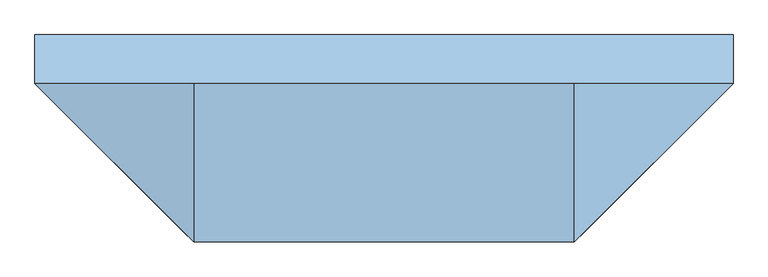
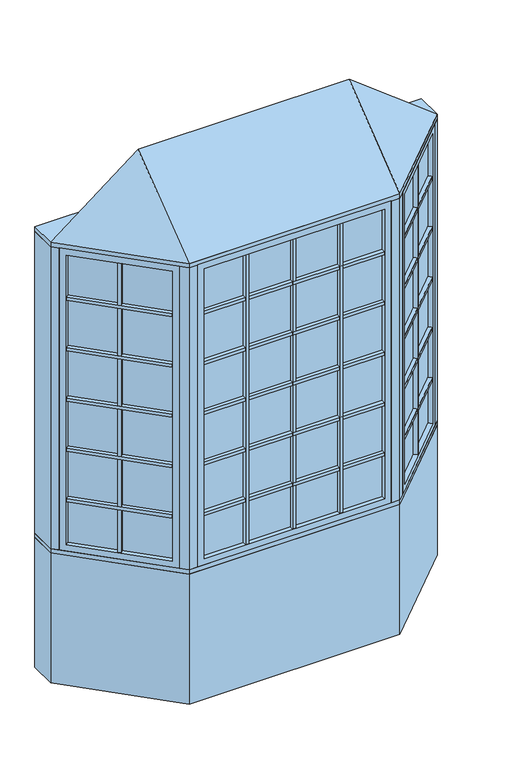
"""IFC4 building model written with IfcOpenShell, lengths in millimetres: window geometry, Pollard_Windows_Tudor Casement Bows and Bays : AML-BAY 45 AFR0518-12-600_GC."""

import ifcopenshell
import ifcopenshell.guid

model = None  # the IFC model being written
_history = None  # IfcOwnerHistory: only IFC2X3 demands one
_inside = {}  # id of a spatial element -> (the spatial element, [elements in it])
_under = {}  # id of a project, library or spatial element -> (it, [spatial elements below it])
_declared = {}  # id of a project -> (the project, [libraries it declares])
_typed = {}  # id of a type object -> (the type object, [elements of that type])
_made_of = {}  # id of a material, layer set ... -> (it, [elements and type objects made of it])


def new_model(schema):
    """Start an empty IFC model of exactly this schema.

    Asked for "IFC4X3", IfcOpenShell would pick the latest addendum, in which some entities
    have other attributes; the version numbers below select the first issue.
    IFC2X3 requires an IfcOwnerHistory on every rooted entity: one is made here for all.
    """
    global model, _history
    if schema == "IFC4X3":
        model = ifcopenshell.file(schema_version=(4, 3, 0, 0))
    else:
        model = ifcopenshell.file(schema=schema)
    _inside.clear()
    _under.clear()
    _declared.clear()
    _typed.clear()
    _made_of.clear()
    _history = None
    if model.schema == "IFC2X3":
        org = make("IfcOrganization", Name="unknown")
        user = make(
            "IfcPersonAndOrganization",
            ThePerson=make("IfcPerson", FamilyName="unknown"),
            TheOrganization=org,
        )
        app = make(
            "IfcApplication",
            ApplicationDeveloper=org,
            Version="unknown",
            ApplicationFullName="unknown",
            ApplicationIdentifier="unknown",
        )
        _history = make(
            "IfcOwnerHistory",
            OwningUser=user,
            OwningApplication=app,
            ChangeAction="ADDED",
            CreationDate=0,
        )
    return model


def make(cls, **values):
    """One entity of the class cls with the attributes given. An attribute that is None is left unset."""
    return model.create_entity(
        cls, **{name: value for name, value in values.items() if value is not None}
    )


def rooted(cls, **values):
    """An entity with a GlobalId (a new one), such as an element, a storey or a relation."""
    return make(cls, GlobalId=ifcopenshell.guid.new(), OwnerHistory=_history, **values)


def si_unit(unit_type, name, prefix=None):
    """IfcSIUnit, for example si_unit("LENGTHUNIT", "METRE", prefix="MILLI")."""
    return make("IfcSIUnit", UnitType=unit_type, Prefix=prefix, Name=name)


def assignment(units):
    """IfcUnitAssignment: the units of a project."""
    return None if units is None else make("IfcUnitAssignment", Units=units)


def point(xyz):
    """IfcCartesianPoint."""
    return None if xyz is None else make("IfcCartesianPoint", Coordinates=xyz)


def direction(xyz):
    """IfcDirection."""
    return None if xyz is None else make("IfcDirection", DirectionRatios=xyz)


def frame(location, z_axis=None, x_axis=None):
    """IfcAxis2Placement3D, a coordinate frame: its origin and axes. An axis left out is left unset."""
    return make(
        "IfcAxis2Placement3D",
        Location=point(location),
        Axis=direction(z_axis),
        RefDirection=direction(x_axis),
    )


def origin():
    """The frame at (0, 0, 0) with its axes left unset."""
    return frame((0.0, 0.0, 0.0))


def origin_with_axes():
    """The frame at (0, 0, 0) with the z axis (0, 0, 1) and the x axis (1, 0, 0) written out."""
    return frame((0.0, 0.0, 0.0), z_axis=(0.0, 0.0, 1.0), x_axis=(1.0, 0.0, 0.0))


def place(relative_to, where):
    """IfcLocalPlacement: puts the frame where relative to a parent placement (None: the world)."""
    return make(
        "IfcLocalPlacement", PlacementRelTo=relative_to, RelativePlacement=where
    )


def context(
    kind, dimensions, precision=None, world=None, true_north=None, identifier=None
):
    """IfcGeometricRepresentationContext, for example the 3D "Model" context."""
    return make(
        "IfcGeometricRepresentationContext",
        ContextIdentifier=identifier,
        ContextType=kind,
        CoordinateSpaceDimension=dimensions,
        Precision=precision,
        WorldCoordinateSystem=world,
        TrueNorth=true_north,
    )


def project(units=None, contexts=None):
    """IfcProject with its units and contexts."""
    return rooted(
        "IfcProject",
        Name="project",
        RepresentationContexts=contexts,
        UnitsInContext=assignment(units),
    )


def spatial(cls, under=None, at=None, **own):
    """A site, building, storey or space (cls), placed at a placement, below another one or the project."""
    s = rooted(cls, ObjectPlacement=at, **own)
    if under is not None:
        _under.setdefault(under.id(), (under, []))[1].append(s)
    return s


def polyline(points):
    """IfcPolyline through the points."""
    return make("IfcPolyline", Points=[point(p) for p in points])


def outline(outer, holes=None, kind="AREA"):
    """IfcArbitraryClosedProfileDef: a profile drawn as a closed curve; with holes, ...WithVoids."""
    if holes is None:
        return make("IfcArbitraryClosedProfileDef", ProfileType=kind, OuterCurve=outer)
    return make(
        "IfcArbitraryProfileDefWithVoids",
        ProfileType=kind,
        OuterCurve=outer,
        InnerCurves=holes,
    )


def extrude(swept, where, along, depth):
    """IfcExtrudedAreaSolid: the profile swept, set in the frame where, extruded along a direction by depth."""
    return make(
        "IfcExtrudedAreaSolid",
        SweptArea=swept,
        Position=where,
        ExtrudedDirection=direction(along),
        Depth=depth,
    )


def faces_of(points, faces, orient=None, outer=None):
    """IfcFace entities. A face is a list of loops; a loop is a list of indices into points, from 0.

    orient and outer hold one flag for each loop. By default every Orientation is true, the
    first loop of a face is its IfcFaceOuterBound and the others are IfcFaceBound.
    """
    made = []
    for i, loops in enumerate(faces):
        bounds = []
        for j, loop in enumerate(loops):
            is_outer = j == 0 if outer is None else outer[i][j]
            bounds.append(
                make(
                    "IfcFaceOuterBound" if is_outer else "IfcFaceBound",
                    Bound=make("IfcPolyLoop", Polygon=[points[k] for k in loop]),
                    Orientation=True if orient is None else orient[i][j],
                )
            )
        made.append(make("IfcFace", Bounds=bounds))
    return made


def faceted_brep(points, faces, orient=None, outer=None, voids=None):
    """IfcFacetedBrep: a solid bounded by flat faces; with voids (closed shells), ...WithVoids."""
    shared = [point(p) for p in points]
    hull = make("IfcClosedShell", CfsFaces=faces_of(shared, faces, orient, outer))
    if voids is None:
        return make("IfcFacetedBrep", Outer=hull)
    return make(
        "IfcFacetedBrepWithVoids",
        Outer=hull,
        Voids=[
            make(cls, CfsFaces=faces_of(shared, fs, o, b)) for cls, fs, o, b in voids
        ],
    )


def shape(context_of_items, identifier, shape_type, items):
    """IfcShapeRepresentation: the items that make up one representation, for example the "Body"."""
    return make(
        "IfcShapeRepresentation",
        ContextOfItems=context_of_items,
        RepresentationIdentifier=identifier,
        RepresentationType=shape_type,
        Items=items,
    )


def source(mapping_origin, context_of_items, identifier, shape_type, items):
    """IfcRepresentationMap: a shape defined once, which mapped items show again and again."""
    return make(
        "IfcRepresentationMap",
        MappingOrigin=mapping_origin,
        MappedRepresentation=shape(context_of_items, identifier, shape_type, items),
    )


def transform(
    local_origin,
    x_axis=None,
    y_axis=None,
    z_axis=None,
    scale=None,
    scale2=None,
    scale3=None,
    uniform=True,
):
    """IfcCartesianTransformationOperator3D, or its non-uniform kind. x_axis, y_axis, z_axis: its Axis1, 2, 3."""
    if uniform:
        return make(
            "IfcCartesianTransformationOperator3D",
            Axis1=direction(x_axis),
            Axis2=direction(y_axis),
            LocalOrigin=point(local_origin),
            Scale=scale,
            Axis3=direction(z_axis),
        )
    return make(
        "IfcCartesianTransformationOperator3DnonUniform",
        Axis1=direction(x_axis),
        Axis2=direction(y_axis),
        LocalOrigin=point(local_origin),
        Scale=scale,
        Axis3=direction(z_axis),
        Scale2=scale2,
        Scale3=scale3,
    )


def mapped(mapping_source, mapping_target):
    """IfcMappedItem: shows the shape of a source again, moved by a transform."""
    return make(
        "IfcMappedItem", MappingSource=mapping_source, MappingTarget=mapping_target
    )


def made_of(thing, what):
    """Note that an element or type object is made of a material, layer set ...; save() writes the relation."""
    if what is not None:
        _made_of.setdefault(what.id(), (what, []))[1].append(thing)
    return thing


def element(
    cls,
    number,
    at=None,
    inside=None,
    cuts=None,
    type_object=None,
    material=None,
    context=None,
    identifier="Body",
    shape_type=None,
    held_by="IfcProductDefinitionShape",
    body=None,
    shapes=None,
    **own,
):
    """One element of the class cls, such as IfcWall. Its Tag is "e" and its number.

    at: its placement. inside: the storey or other place that contains it. cuts: it is an
    opening in that element (IfcRelVoidsElement). A single representation is given by context,
    identifier, shape_type and body (its items); several are given by shapes. held_by: the class
    of the entity that holds the representations. save() writes the other relations.
    """
    e = rooted(cls, Tag="e%d" % number, ObjectPlacement=at, **own)
    if body is not None:
        shapes = [shape(context, identifier, shape_type, body)]
    if shapes is not None:
        e.Representation = make(held_by, Representations=shapes)
    if inside is not None:
        _inside.setdefault(inside.id(), (inside, []))[1].append(e)
    if cuts is not None:
        rooted(
            "IfcRelVoidsElement", RelatingBuildingElement=cuts, RelatedOpeningElement=e
        )
    if type_object is not None:
        _typed.setdefault(type_object.id(), (type_object, []))[1].append(e)
    return made_of(e, material)


def aggregate(whole, parts):
    """IfcRelAggregates: a whole, such as a stair, and the parts it consists of."""
    return rooted("IfcRelAggregates", RelatingObject=whole, RelatedObjects=parts)


def save(model, path):
    """Write the relations noted so far, then the file.

    IfcRelAggregates (storeys below a building ...), IfcRelContainedInSpatialStructure (elements
    in a storey), IfcRelDefinesByType, IfcRelAssociatesMaterial and IfcRelDeclares: one each for
    every whole, place, type object, material and project.
    """
    for whole, parts in _under.values():
        aggregate(whole, parts)
    for where, things in _inside.values():
        rooted(
            "IfcRelContainedInSpatialStructure",
            RelatedElements=things,
            RelatingStructure=where,
        )
    for kind, things in _typed.values():
        rooted("IfcRelDefinesByType", RelatedObjects=things, RelatingType=kind)
    for what, things in _made_of.values():
        rooted("IfcRelAssociatesMaterial", RelatedObjects=things, RelatingMaterial=what)
    for by, libraries in _declared.values():
        rooted("IfcRelDeclares", RelatingContext=by, RelatedDefinitions=libraries)
    model.write(path)


def window_131a28d9(model_context):
    return source(origin(), model_context, "Body", "SolidModel", [
        extrude(outline(polyline([(653.0114193, -506.9608753), (637.4550701, -491.4045261), (1015.116171, -113.7434252), (1030.6725202, -129.2997743), (653.0114193, -506.9608753)])), frame((0.0, 0.0, 1690.998), z_axis=(0.0, 0.0, 1.0), x_axis=(1.0, 0.0, 0.0)), (0.0, 0.0, 1.0), 18.0),
        extrude(outline(polyline([(633.8629677, -487.8124236), (618.3066185, -472.2560744), (995.9677194, -94.5949735), (1011.5240686, -110.1513227), (633.8629677, -487.8124236)])), frame((0.0, 0.0, 1690.998), z_axis=(0.0, 0.0, 1.0), x_axis=(1.0, 0.0, 0.0)), (0.0, 0.0, 1.0), 18.0),
        extrude(outline(polyline([(653.0114193, -506.9608753), (637.4550701, -491.4045261), (1015.116171, -113.7434252), (1030.6725202, -129.2997743), (653.0114193, -506.9608753)])), frame((0.0, 0.0, 1090.998), z_axis=(0.0, 0.0, 1.0), x_axis=(1.0, 0.0, 0.0)), (0.0, 0.0, 1.0), 18.0),
        extrude(outline(polyline([(633.8629677, -487.8124236), (618.3066185, -472.2560744), (995.9677194, -94.5949735), (1011.5240686, -110.1513227), (633.8629677, -487.8124236)])), frame((0.0, 0.0, 1090.998), z_axis=(0.0, 0.0, 1.0), x_axis=(1.0, 0.0, 0.0)), (0.0, 0.0, 1.0), 18.0),
        extrude(outline(polyline([(653.0114193, -506.9608753), (637.4550701, -491.4045261), (1015.116171, -113.7434252), (1030.6725202, -129.2997743), (653.0114193, -506.9608753)])), frame((0.0, 0.0, 1390.998), z_axis=(0.0, 0.0, 1.0), x_axis=(1.0, 0.0, 0.0)), (0.0, 0.0, 1.0), 18.0),
        extrude(outline(polyline([(633.8629677, -487.8124236), (618.3066185, -472.2560744), (995.9677194, -94.5949735), (1011.5240686, -110.1513227), (633.8629677, -487.8124236)])), frame((0.0, 0.0, 1390.998), z_axis=(0.0, 0.0, 1.0), x_axis=(1.0, 0.0, 0.0)), (0.0, 0.0, 1.0), 18.0),
        extrude(outline(polyline([(653.0114193, -506.9608753), (637.4550701, -491.4045261), (1015.116171, -113.7434252), (1030.6725202, -129.2997743), (653.0114193, -506.9608753)])), frame((0.0, 0.0, 1990.998), z_axis=(0.0, 0.0, 1.0), x_axis=(1.0, 0.0, 0.0)), (0.0, 0.0, 1.0), 18.0),
        extrude(outline(polyline([(633.8629677, -487.8124236), (618.3066185, -472.2560744), (995.9677194, -94.5949735), (1011.5240686, -110.1513227), (633.8629677, -487.8124236)])), frame((0.0, 0.0, 1990.998), z_axis=(0.0, 0.0, 1.0), x_axis=(1.0, 0.0, 0.0)), (0.0, 0.0, 1.0), 18.0),
        extrude(outline(polyline([(653.0114193, -506.9608753), (637.4550701, -491.4045261), (1015.116171, -113.7434252), (1030.6725202, -129.2997743), (653.0114193, -506.9608753)])), frame((0.0, 0.0, 2290.998), z_axis=(0.0, 0.0, 1.0), x_axis=(1.0, 0.0, 0.0)), (0.0, 0.0, 1.0), 18.0),
        extrude(outline(polyline([(633.8629677, -487.8124236), (618.3066185, -472.2560744), (995.9677194, -94.5949735), (1011.5240686, -110.1513227), (633.8629677, -487.8124236)])), frame((0.0, 0.0, 2290.998), z_axis=(0.0, 0.0, 1.0), x_axis=(1.0, 0.0, 0.0)), (0.0, 0.0, 1.0), 18.0),
        extrude(outline(polyline([(832.6495816, -296.2100146), (848.2059308, -311.7663638), (835.4780087, -324.4942858), (819.9216595, -308.9379366), (832.6495816, -296.2100146)])), frame((0.0, 0.0, 835.8628), z_axis=(0.0, 0.0, 1.0), x_axis=(1.0, 0.0, 0.0)), (0.0, 0.0, 1.0), 1728.2704),
        extrude(outline(polyline([(829.0574791, -292.6179121), (816.3295571, -305.3458342), (800.7732079, -289.789485), (813.50113, -277.0615629), (829.0574791, -292.6179121)])), frame((0.0, 0.0, 835.8628), z_axis=(0.0, 0.0, 1.0), x_axis=(1.0, 0.0, 0.0)), (0.0, 0.0, 1.0), 1728.2704),
        extrude(outline(polyline([(1024.0964271, -104.763169), (628.474814, -500.3847822), (624.8827115, -496.7926797), (1020.5043247, -101.1710666), (1024.0964271, -104.763169)])), frame((0.0, 0.0, 823.1628), z_axis=(0.0, 0.0, 1.0), x_axis=(1.0, 0.0, 0.0)), (0.0, 0.0, 1.0), 1753.6704),
        faceted_brep([(1015.116171, -113.7434252, 835.8628), (1033.0766833, -131.7039374, 835.8628), (1033.0766833, -131.7039374, 2564.1332), (1015.116171, -113.7434252, 2564.1332), (1020.5043247, -101.1710666, 823.1628), (1024.0964271, -104.763169, 823.1628), (1024.0964271, -104.763169, 2576.8332), (1020.5043247, -101.1710666, 2576.8332), (993.5635563, -92.1908105, 835.8628), (1011.5240686, -110.1513227, 835.8628), (1011.5240686, -110.1513227, 2564.1332), (993.5635563, -92.1908105, 2564.1332), (1058.4369265, -106.3436941, 799.998), (1018.9237996, -66.8305672, 799.998), (1018.9237996, -66.8305672, 2599.998), (1058.4369265, -106.3436941, 2599.998), (655.4155823, -509.3650383, 2564.1332), (637.4550701, -491.4045261, 2564.1332), (628.474814, -500.3847822, 2576.8332), (624.8827115, -496.7926797, 2576.8332), (633.8629677, -487.8124236, 2564.1332), (615.9024554, -469.8519114, 2564.1332), (590.5422121, -495.2121547, 2599.998), (630.0553391, -534.7252816, 2599.998), (655.4155823, -509.3650383, 835.8628), (637.4550701, -491.4045261, 835.8628), (628.474814, -500.3847822, 823.1628), (624.8827115, -496.7926797, 823.1628), (633.8629677, -487.8124236, 835.8628), (615.9024554, -469.8519114, 835.8628), (590.5422121, -495.2121547, 799.998), (630.0553391, -534.7252816, 799.998)], [[[0, 1, 2, 3]], [[4, 5, 6, 7]], [[8, 9, 10, 11]], [[12, 13, 14, 15]], [[3, 2, 16, 17]], [[7, 6, 18, 19]], [[11, 10, 20, 21]], [[15, 14, 22, 23]], [[17, 16, 24, 25]], [[19, 18, 26, 27]], [[21, 20, 28, 29]], [[23, 22, 30, 31]], [[25, 24, 1, 0]], [[5, 26, 18, 6], [3, 17, 25, 0]], [[27, 26, 5, 4]], [[7, 19, 27, 4], [9, 28, 20, 10]], [[29, 28, 9, 8]], [[13, 30, 22, 14], [11, 21, 29, 8]], [[31, 30, 13, 12]], [[15, 23, 31, 12], [1, 24, 16, 2]]]),
        extrude(outline(polyline([(274.2677, -544.6806207), (274.2677, -566.6806207), (256.2677, -566.6806207), (256.2677, -544.6806207), (274.2677, -544.6806207)])), frame((0.0, 0.0, 835.8628), z_axis=(0.0, 0.0, 1.0), x_axis=(1.0, 0.0, 0.0)), (0.0, 0.0, 1.0), 1728.2704),
        extrude(outline(polyline([(274.2677, -539.6006207), (256.2677, -539.6006207), (256.2677, -517.6006207), (274.2677, -517.6006207), (274.2677, -539.6006207)])), frame((0.0, 0.0, 835.8628), z_axis=(0.0, 0.0, 1.0), x_axis=(1.0, 0.0, 0.0)), (0.0, 0.0, 1.0), 1728.2704),
        extrude(outline(polyline([(-256.2677, -544.6806207), (-256.2677, -566.6806207), (-274.2677, -566.6806207), (-274.2677, -544.6806207), (-256.2677, -544.6806207)])), frame((0.0, 0.0, 835.8628), z_axis=(0.0, 0.0, 1.0), x_axis=(1.0, 0.0, 0.0)), (0.0, 0.0, 1.0), 1728.2704),
        extrude(outline(polyline([(-256.2677, -539.6006207), (-274.2677, -539.6006207), (-274.2677, -517.6006207), (-256.2677, -517.6006207), (-256.2677, -539.6006207)])), frame((0.0, 0.0, 835.8628), z_axis=(0.0, 0.0, 1.0), x_axis=(1.0, 0.0, 0.0)), (0.0, 0.0, 1.0), 1728.2704),
        extrude(outline(polyline([(-508.8352, -566.6806207), (-508.8352, -544.6806207), (508.8352, -544.6806207), (508.8352, -566.6806207), (-508.8352, -566.6806207)])), frame((0.0, 0.0, 1090.998), z_axis=(0.0, 0.0, 1.0), x_axis=(1.0, 0.0, 0.0)), (0.0, 0.0, 1.0), 18.0),
        extrude(outline(polyline([(-508.8352, -539.6006207), (-508.8352, -517.6006207), (508.8352, -517.6006207), (508.8352, -539.6006207), (-508.8352, -539.6006207)])), frame((0.0, 0.0, 1090.998), z_axis=(0.0, 0.0, 1.0), x_axis=(1.0, 0.0, 0.0)), (0.0, 0.0, 1.0), 18.0),
        extrude(outline(polyline([(-508.8352, -566.6806207), (-508.8352, -544.6806207), (508.8352, -544.6806207), (508.8352, -566.6806207), (-508.8352, -566.6806207)])), frame((0.0, 0.0, 1390.998), z_axis=(0.0, 0.0, 1.0), x_axis=(1.0, 0.0, 0.0)), (0.0, 0.0, 1.0), 18.0),
        extrude(outline(polyline([(-508.8352, -539.6006207), (-508.8352, -517.6006207), (508.8352, -517.6006207), (508.8352, -539.6006207), (-508.8352, -539.6006207)])), frame((0.0, 0.0, 1390.998), z_axis=(0.0, 0.0, 1.0), x_axis=(1.0, 0.0, 0.0)), (0.0, 0.0, 1.0), 18.0),
        extrude(outline(polyline([(-508.8352, -566.6806207), (-508.8352, -544.6806207), (508.8352, -544.6806207), (508.8352, -566.6806207), (-508.8352, -566.6806207)])), frame((0.0, 0.0, 1690.998), z_axis=(0.0, 0.0, 1.0), x_axis=(1.0, 0.0, 0.0)), (0.0, 0.0, 1.0), 18.0),
        extrude(outline(polyline([(-508.8352, -539.6006207), (-508.8352, -517.6006207), (508.8352, -517.6006207), (508.8352, -539.6006207), (-508.8352, -539.6006207)])), frame((0.0, 0.0, 1690.998), z_axis=(0.0, 0.0, 1.0), x_axis=(1.0, 0.0, 0.0)), (0.0, 0.0, 1.0), 18.0),
        extrude(outline(polyline([(-508.8352, -566.6806207), (-508.8352, -544.6806207), (508.8352, -544.6806207), (508.8352, -566.6806207), (-508.8352, -566.6806207)])), frame((0.0, 0.0, 1990.998), z_axis=(0.0, 0.0, 1.0), x_axis=(1.0, 0.0, 0.0)), (0.0, 0.0, 1.0), 18.0),
        extrude(outline(polyline([(-508.8352, -539.6006207), (-508.8352, -517.6006207), (508.8352, -517.6006207), (508.8352, -539.6006207), (-508.8352, -539.6006207)])), frame((0.0, 0.0, 1990.998), z_axis=(0.0, 0.0, 1.0), x_axis=(1.0, 0.0, 0.0)), (0.0, 0.0, 1.0), 18.0),
        extrude(outline(polyline([(-1030.6725202, -129.2997743), (-1015.116171, -113.7434252), (-637.4550701, -491.4045261), (-653.0114193, -506.9608753), (-1030.6725202, -129.2997743)])), frame((0.0, 0.0, 1090.998), z_axis=(0.0, 0.0, 1.0), x_axis=(1.0, 0.0, 0.0)), (0.0, 0.0, 1.0), 18.0),
        extrude(outline(polyline([(-1011.5240686, -110.1513227), (-995.9677194, -94.5949735), (-618.3066185, -472.2560744), (-633.8629677, -487.8124236), (-1011.5240686, -110.1513227)])), frame((0.0, 0.0, 1090.998), z_axis=(0.0, 0.0, 1.0), x_axis=(1.0, 0.0, 0.0)), (0.0, 0.0, 1.0), 18.0),
        extrude(outline(polyline([(-1030.6725202, -129.2997743), (-1015.116171, -113.7434252), (-637.4550701, -491.4045261), (-653.0114193, -506.9608753), (-1030.6725202, -129.2997743)])), frame((0.0, 0.0, 1390.998), z_axis=(0.0, 0.0, 1.0), x_axis=(1.0, 0.0, 0.0)), (0.0, 0.0, 1.0), 18.0),
        extrude(outline(polyline([(-1011.5240686, -110.1513227), (-995.9677194, -94.5949735), (-618.3066185, -472.2560744), (-633.8629677, -487.8124236), (-1011.5240686, -110.1513227)])), frame((0.0, 0.0, 1390.998), z_axis=(0.0, 0.0, 1.0), x_axis=(1.0, 0.0, 0.0)), (0.0, 0.0, 1.0), 18.0),
        extrude(outline(polyline([(-1030.6725202, -129.2997743), (-1015.116171, -113.7434252), (-637.4550701, -491.4045261), (-653.0114193, -506.9608753), (-1030.6725202, -129.2997743)])), frame((0.0, 0.0, 1690.998), z_axis=(0.0, 0.0, 1.0), x_axis=(1.0, 0.0, 0.0)), (0.0, 0.0, 1.0), 18.0),
        extrude(outline(polyline([(-1011.5240686, -110.1513227), (-995.9677194, -94.5949735), (-618.3066185, -472.2560744), (-633.8629677, -487.8124236), (-1011.5240686, -110.1513227)])), frame((0.0, 0.0, 1690.998), z_axis=(0.0, 0.0, 1.0), x_axis=(1.0, 0.0, 0.0)), (0.0, 0.0, 1.0), 18.0),
        extrude(outline(polyline([(-1030.6725202, -129.2997743), (-1015.116171, -113.7434252), (-637.4550701, -491.4045261), (-653.0114193, -506.9608753), (-1030.6725202, -129.2997743)])), frame((0.0, 0.0, 1990.998), z_axis=(0.0, 0.0, 1.0), x_axis=(1.0, 0.0, 0.0)), (0.0, 0.0, 1.0), 18.0),
        extrude(outline(polyline([(-1011.5240686, -110.1513227), (-995.9677194, -94.5949735), (-618.3066185, -472.2560744), (-633.8629677, -487.8124236), (-1011.5240686, -110.1513227)])), frame((0.0, 0.0, 1990.998), z_axis=(0.0, 0.0, 1.0), x_axis=(1.0, 0.0, 0.0)), (0.0, 0.0, 1.0), 18.0),
        extrude(outline(polyline([(-1030.6725202, -129.2997743), (-1015.116171, -113.7434252), (-637.4550701, -491.4045261), (-653.0114193, -506.9608753), (-1030.6725202, -129.2997743)])), frame((0.0, 0.0, 2290.998), z_axis=(0.0, 0.0, 1.0), x_axis=(1.0, 0.0, 0.0)), (0.0, 0.0, 1.0), 18.0),
        extrude(outline(polyline([(-1011.5240686, -110.1513227), (-995.9677194, -94.5949735), (-618.3066185, -472.2560744), (-633.8629677, -487.8124236), (-1011.5240686, -110.1513227)])), frame((0.0, 0.0, 2290.998), z_axis=(0.0, 0.0, 1.0), x_axis=(1.0, 0.0, 0.0)), (0.0, 0.0, 1.0), 18.0),
        extrude(outline(polyline([(-508.8352, -566.6806207), (-508.8352, -544.6806207), (508.8352, -544.6806207), (508.8352, -566.6806207), (-508.8352, -566.6806207)])), frame((0.0, 0.0, 2290.998), z_axis=(0.0, 0.0, 1.0), x_axis=(1.0, 0.0, 0.0)), (0.0, 0.0, 1.0), 18.0),
        extrude(outline(polyline([(-508.8352, -539.6006207), (-508.8352, -517.6006207), (508.8352, -517.6006207), (508.8352, -539.6006207), (-508.8352, -539.6006207)])), frame((0.0, 0.0, 2290.998), z_axis=(0.0, 0.0, 1.0), x_axis=(1.0, 0.0, 0.0)), (0.0, 0.0, 1.0), 18.0),
        extrude(outline(polyline([(-819.9216595, -308.9379366), (-835.4780087, -324.4942858), (-848.2059308, -311.7663638), (-832.6495816, -296.2100146), (-819.9216595, -308.9379366)])), frame((0.0, 0.0, 835.8628), z_axis=(0.0, 0.0, 1.0), x_axis=(1.0, 0.0, 0.0)), (0.0, 0.0, 1.0), 1728.2704),
        extrude(outline(polyline([(-816.3295571, -305.3458342), (-829.0574791, -292.6179121), (-813.50113, -277.0615629), (-800.7732079, -289.789485), (-816.3295571, -305.3458342)])), frame((0.0, 0.0, 835.8628), z_axis=(0.0, 0.0, 1.0), x_axis=(1.0, 0.0, 0.0)), (0.0, 0.0, 1.0), 1728.2704),
        extrude(outline(polyline([(9.0, -544.6806207), (9.0, -566.6806207), (-9.0, -566.6806207), (-9.0, -544.6806207), (9.0, -544.6806207)])), frame((0.0, 0.0, 835.8628), z_axis=(0.0, 0.0, 1.0), x_axis=(1.0, 0.0, 0.0)), (0.0, 0.0, 1.0), 1728.2704),
        extrude(outline(polyline([(9.0, -539.6006207), (-9.0, -539.6006207), (-9.0, -517.6006207), (9.0, -517.6006207), (9.0, -539.6006207)])), frame((0.0, 0.0, 835.8628), z_axis=(0.0, 0.0, 1.0), x_axis=(1.0, 0.0, 0.0)), (0.0, 0.0, 1.0), 1728.2704),
        extrude(outline(polyline([(-628.474814, -500.3847822), (-1024.0964271, -104.763169), (-1020.5043247, -101.1710666), (-624.8827115, -496.7926797), (-628.474814, -500.3847822)])), frame((0.0, 0.0, 823.1628), z_axis=(0.0, 0.0, 1.0), x_axis=(1.0, 0.0, 0.0)), (0.0, 0.0, 1.0), 1753.6704),
        faceted_brep([(-633.8629677, -487.8124236, 2564.1332), (-615.9024554, -469.8519114, 2564.1332), (-615.9024554, -469.8519114, 835.8628), (-633.8629677, -487.8124236, 835.8628), (-628.474814, -500.3847822, 2576.8332), (-624.8827115, -496.7926797, 2576.8332), (-624.8827115, -496.7926797, 823.1628), (-628.474814, -500.3847822, 823.1628), (-655.4155823, -509.3650383, 2564.1332), (-637.4550701, -491.4045261, 2564.1332), (-637.4550701, -491.4045261, 835.8628), (-655.4155823, -509.3650383, 835.8628), (-590.5422121, -495.2121547, 2599.998), (-630.0553391, -534.7252816, 2599.998), (-630.0553391, -534.7252816, 799.998), (-590.5422121, -495.2121547, 799.998), (-993.5635563, -92.1908105, 835.8628), (-1011.5240686, -110.1513227, 835.8628), (-1020.5043247, -101.1710666, 823.1628), (-1024.0964271, -104.763169, 823.1628), (-1015.116171, -113.7434252, 835.8628), (-1033.0766833, -131.7039374, 835.8628), (-1058.4369265, -106.3436941, 799.998), (-1018.9237996, -66.8305672, 799.998), (-993.5635563, -92.1908105, 2564.1332), (-1011.5240686, -110.1513227, 2564.1332), (-1020.5043247, -101.1710666, 2576.8332), (-1024.0964271, -104.763169, 2576.8332), (-1015.116171, -113.7434252, 2564.1332), (-1033.0766833, -131.7039374, 2564.1332), (-1058.4369265, -106.3436941, 2599.998), (-1018.9237996, -66.8305672, 2599.998)], [[[0, 1, 2, 3]], [[4, 5, 6, 7]], [[8, 9, 10, 11]], [[12, 13, 14, 15]], [[3, 2, 16, 17]], [[7, 6, 18, 19]], [[11, 10, 20, 21]], [[15, 14, 22, 23]], [[17, 16, 24, 25]], [[19, 18, 26, 27]], [[21, 20, 28, 29]], [[23, 22, 30, 31]], [[15, 23, 31, 12], [1, 24, 16, 2]], [[25, 24, 1, 0]], [[5, 26, 18, 6], [3, 17, 25, 0]], [[27, 26, 5, 4]], [[7, 19, 27, 4], [9, 28, 20, 10]], [[29, 28, 9, 8]], [[13, 30, 22, 14], [11, 21, 29, 8]], [[31, 30, 13, 12]]]),
        extrude(outline(polyline([(521.5352, -544.6806207), (-521.5352, -544.6806207), (-521.5352, -539.6006207), (521.5352, -539.6006207), (521.5352, -544.6806207)])), frame((0.0, 0.0, 823.1628), z_axis=(0.0, 0.0, 1.0), x_axis=(1.0, 0.0, 0.0)), (0.0, 0.0, 1.0), 1753.6704),
        faceted_brep([(508.8352, -544.6806207, 835.8628), (508.8352, -570.0806207, 835.8628), (508.8352, -570.0806207, 2564.1332), (508.8352, -544.6806207, 2564.1332), (521.5352, -539.6006207, 823.1628), (521.5352, -544.6806207, 823.1628), (521.5352, -544.6806207, 2576.8332), (521.5352, -539.6006207, 2576.8332), (508.8352, -514.2006207, 835.8628), (508.8352, -539.6006207, 835.8628), (508.8352, -539.6006207, 2564.1332), (508.8352, -514.2006207, 2564.1332), (544.7, -570.0806207, 799.998), (544.7, -514.2006207, 799.998), (544.7, -514.2006207, 2599.998), (544.7, -570.0806207, 2599.998), (-508.8352, -570.0806207, 2564.1332), (-508.8352, -544.6806207, 2564.1332), (-521.5352, -544.6806207, 2576.8332), (-521.5352, -539.6006207, 2576.8332), (-508.8352, -539.6006207, 2564.1332), (-508.8352, -514.2006207, 2564.1332), (-544.7, -514.2006207, 2599.998), (-544.7, -570.0806207, 2599.998), (-508.8352, -570.0806207, 835.8628), (-508.8352, -544.6806207, 835.8628), (-521.5352, -544.6806207, 823.1628), (-521.5352, -539.6006207, 823.1628), (-508.8352, -539.6006207, 835.8628), (-508.8352, -514.2006207, 835.8628), (-544.7, -514.2006207, 799.998), (-544.7, -570.0806207, 799.998)], [[[0, 1, 2, 3]], [[4, 5, 6, 7]], [[8, 9, 10, 11]], [[12, 13, 14, 15]], [[3, 2, 16, 17]], [[7, 6, 18, 19]], [[11, 10, 20, 21]], [[15, 14, 22, 23]], [[17, 16, 24, 25]], [[19, 18, 26, 27]], [[21, 20, 28, 29]], [[23, 22, 30, 31]], [[15, 23, 31, 12], [1, 24, 16, 2]], [[25, 24, 1, 0]], [[5, 26, 18, 6], [3, 17, 25, 0]], [[27, 26, 5, 4]], [[7, 19, 27, 4], [9, 28, 20, 10]], [[29, 28, 9, 8]], [[13, 30, 22, 14], [11, 21, 29, 8]], [[31, 30, 13, 12]]]),
        faceted_brep([(1090.0, -74.7806207, 2625.398), (594.7, -570.0806207, 2625.398), (-594.7, -570.0806207, 2625.398), (-1090.0, -74.7806207, 2625.398), (-594.7, -74.7806207, 3006.398), (594.7, -74.7806207, 3006.398)], [[[0, 1, 2, 3]], [[3, 2, 4]], [[2, 1, 5, 4]], [[1, 0, 5]], [[0, 3, 4, 5]]]),
        extrude(outline(polyline([(-1090.0, 77.6193793), (1090.0, 77.6193793), (1090.0, -74.7806207), (594.7, -570.0806207), (-594.7, -570.0806207), (-1090.0, -74.7806207), (-1090.0, 77.6193793)])), frame((0.0, 0.0, 2599.998), z_axis=(0.0, 0.0, 1.0), x_axis=(1.0, 0.0, 0.0)), (0.0, 0.0, 1.0), 25.4),
        extrude(outline(polyline([(-1090.0, -74.7806207), (-1090.0, 77.6193793), (-1026.8738531, 77.6193793), (-1026.8738531, -74.7806207), (-1058.4369265, -106.3436941), (-1090.0, -74.7806207)])), frame((0.0, 0.0, 799.998), z_axis=(0.0, 0.0, 1.0), x_axis=(1.0, 0.0, 0.0)), (0.0, 0.0, 1.0), 1800.0),
        extrude(outline(polyline([(1090.0, 77.6193793), (1090.0, -74.7806207), (1058.4369265, -106.3436941), (1026.8738531, -74.7806207), (1026.8738531, 77.6193793), (1090.0, 77.6193793)])), frame((0.0, 0.0, 799.998), z_axis=(0.0, 0.0, 1.0), x_axis=(1.0, 0.0, 0.0)), (0.0, 0.0, 1.0), 1800.0),
        extrude(outline(polyline([(594.7, -570.0806207), (544.7, -570.0806207), (544.7, -520.0806207), (573.9893219, -520.0806207), (594.7, -499.3699425), (630.0553391, -534.7252816), (594.7, -570.0806207)])), frame((0.0, 0.0, 799.998), z_axis=(0.0, 0.0, 1.0), x_axis=(1.0, 0.0, 0.0)), (0.0, 0.0, 1.0), 1800.0),
        extrude(outline(polyline([(-594.7, -570.0806207), (-630.0553391, -534.7252816), (-594.7, -499.3699425), (-573.9893219, -520.0806207), (-544.7, -520.0806207), (-544.7, -570.0806207), (-594.7, -570.0806207)])), frame((0.0, 0.0, 799.998), z_axis=(0.0, 0.0, 1.0), x_axis=(1.0, 0.0, 0.0)), (0.0, 0.0, 1.0), 1800.0),
        extrude(outline(polyline([(-594.7, -570.0806207), (-1090.0, -74.7806207), (-1090.0, 77.6193793), (-1026.8738531, 77.6193793), (-531.5738531, -417.6806207), (531.5738531, -417.6806207), (1026.8738531, 77.6193793), (1090.0, 77.6193793), (1090.0, -74.7806207), (594.7, -570.0806207), (-594.7, -570.0806207)])), frame((0.0, 0.0, 774.598), z_axis=(0.0, 0.0, 1.0), x_axis=(1.0, 0.0, 0.0)), (0.0, 0.0, 1.0), 25.4),
        extrude(outline(polyline([(-1090.0, -74.7806207), (-1090.0, 77.6193793), (-1026.8738531, 77.6193793), (-531.5738531, -417.6806207), (531.5738531, -417.6806207), (1026.8738531, 77.6193793), (1090.0, 77.6193793), (1090.0, -74.7806207), (594.7, -570.0806207), (-594.7, -570.0806207), (-1090.0, -74.7806207)])), origin_with_axes(), (0.0, 0.0, 1.0), 774.598),
    ])


if __name__ == "__main__":
    model = new_model("IFC4")
    model_context = context("Model", 3, world=origin())
    ifc_project = project(units=[si_unit("LENGTHUNIT", "METRE", prefix="MILLI")], contexts=[model_context])
    site = spatial("IfcSite", under=ifc_project)
    building = spatial("IfcBuilding", under=site)
    placement = place(None, origin())
    window_shape = window_131a28d9(model_context)
    element("IfcWindow", 1, ObjectType="Pollard_Windows_Tudor Casement Bows and Bays : AML-BAY 45 AFR0518-12-600_GC", at=placement, inside=building, context=model_context, shape_type="MappedRepresentation", body=[
        mapped(window_shape, transform((0.0, 0.0, 0.0), x_axis=(1.0, 0.0, 0.0), y_axis=(0.0, 1.0, 0.0), z_axis=(0.0, 0.0, 1.0))),
    ])
    save(model, "model.ifc")
